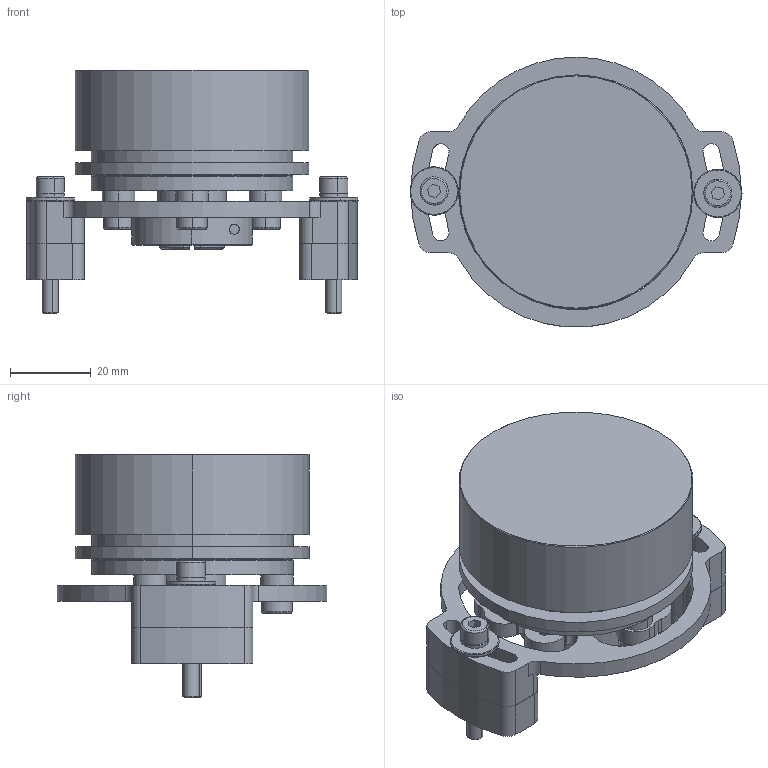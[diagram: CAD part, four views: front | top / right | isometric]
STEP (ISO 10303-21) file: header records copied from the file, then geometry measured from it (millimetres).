
FILE_DESCRIPTION (( 'STEP AP214' ), '1' );
FILE_NAME ('drawing-mcs-1h2s-q5b-n.STEP', '2017-08-29T13:02:00', ( '' ), ( '' ), 'SwSTEP 2.0', 'SolidWorks 2017', '' );
FILE_SCHEMA (( 'AUTOMOTIVE_DESIGN' ));
Length unit declared in the file: millimetre
Products named in the file (1): drawing-mcs-1h2s-q5b-n
Bounding box: 82.34 x 66.89 x 60.5 mm (x, y, z)
Volume: 89946.4 mm3; surface area: 49668.4 mm2
Topology: 42 solids, 45 shells, 906 faces, 2266 edges, 1436 vertices
Faces by surface type: cylinder 377, plane 341, bspline 110, cone 74, torus 4
Entity records: 40014 total; most frequent: CARTESIAN_POINT 8187, DIRECTION 4603, ORIENTED_EDGE 4400, EDGE_CURVE 2200, AXIS2_PLACEMENT_3D 1852, VERTEX_POINT 1436, CIRCLE 1055, EDGE_LOOP 1030
